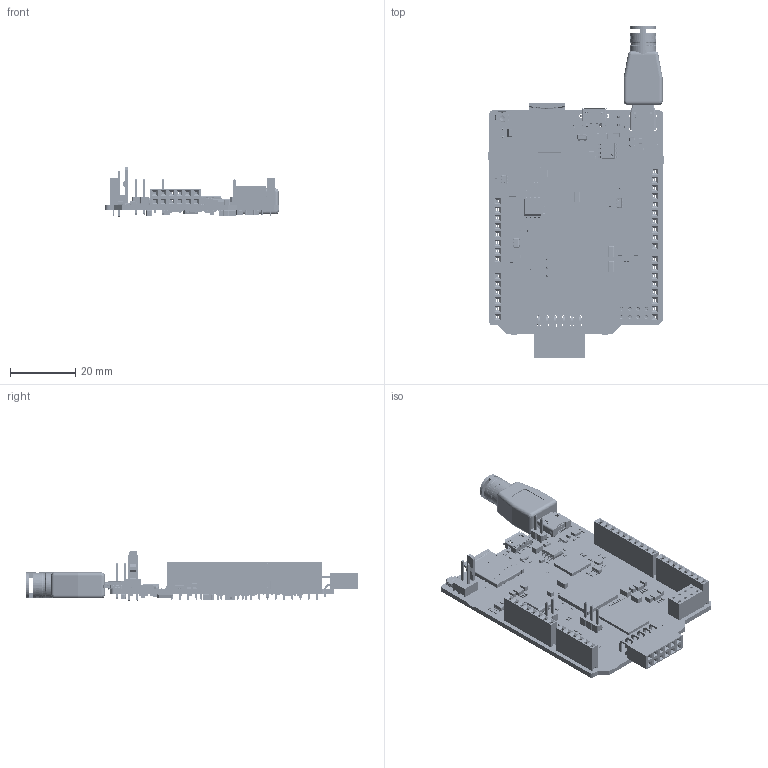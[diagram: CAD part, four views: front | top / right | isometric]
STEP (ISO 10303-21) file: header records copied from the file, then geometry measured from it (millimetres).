
FILE_DESCRIPTION(('Open CASCADE Model'),'2;1');
FILE_NAME('Open CASCADE Shape Model','2025-03-14T10:58:39',('Author'),( 'Open CASCADE'),'Open CASCADE STEP processor 7.5','Open CASCADE 7.5' ,'Unknown');
FILE_SCHEMA(('AUTOMOTIVE_DESIGN { 1 0 10303 214 1 1 1 1 }'));
Length unit declared in the file: millimetre
Products named in the file (747): PCB; Board; Open CASCADE STEP translator 7.5 1.1.1; D3; User Library-MicroSMP-1; User Library-MicroSMP-1_Body; User Library-MicroSMP-1_Pins; R107; 6770338544; C106; User Library-SMD CAPACITOR0402; J13; pin_header_aw140-eg-g02d; C105; User Library-SMD 0201 CAPACITOR; C104; C103; C102; C100; C99; C97; C96; C95; C94; C76; User Library-CAPC3216X___CAPC3216X180N; C73; C70; C65; C64; U9; 7046485888; Cylinder; 7046485728; Extruded; U20; 7046486928; 7046486688; R106; 6770338144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
Assembly tree (981 placements, depth 4):
  PCB
    Board
      Open CASCADE STEP translator 7.5 1.1.1
    D3
      User Library-MicroSMP-1
        User Library-MicroSMP-1_Body
        User Library-MicroSMP-1_Pins
    R107
      6770338544
    C106
      User Library-SMD CAPACITOR0402
    J13
      pin_header_aw140-eg-g02d
    C105
      User Library-SMD 0201 CAPACITOR
    C104
      User Library-SMD 0201 CAPACITOR
    C103
      User Library-SMD 0201 CAPACITOR
    C102
      User Library-SMD 0201 CAPACITOR
    C100
      User Library-SMD CAPACITOR0402
    C99
      User Library-SMD 0201 CAPACITOR
    C97
      User Library-SMD 0201 CAPACITOR
    C96
      User Library-SMD 0201 CAPACITOR
    C95
      User Library-SMD 0201 CAPACITOR
    C94
      User Library-SMD CAPACITOR0402
    C76
      User Library-CAPC3216X___CAPC3216X180N
    C73
      User Library-CAPC3216X___CAPC3216X180N
    C70
      User Library-SMD 0201 CAPACITOR
    C65
      User Library-SMD 0201 CAPACITOR
    C64
      User Library-SMD CAPACITOR0402
    U9
      7046485888
        Cylinder
      7046485728
        Extruded
    U20
      7046486928
        Extruded
      7046486688
        Cylinder
    R106
      6770338144
    R105
      6770338144
    R104
      6770338544
    R103
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Bounding box: 54.26 x 102.04 x 15.26 mm (x, y, z)
Volume: 10135 mm3; surface area: 20671.6 mm2
Topology: 867 solids, 1245 shells, 19119 faces, 47766 edges, 29333 vertices
Faces by surface type: plane 10986, cylinder 5884, sphere 1650, bspline 459, torus 123, cone 17
Full cylindrical faces by diameter (mm): 0.4 x3, 0.6 x7, 0.65 x2, 0.8 x2, 1 x65, 1.2 x3, 3.2 x4, 6 x4
Entity records: 304913 total; most frequent: CARTESIAN_POINT 57964, DIRECTION 36710, ORIENTED_EDGE 36404, EDGE_CURVE 19215, LINE 14624, VECTOR 14624, VERTEX_POINT 13315, AXIS2_PLACEMENT_3D 11043
